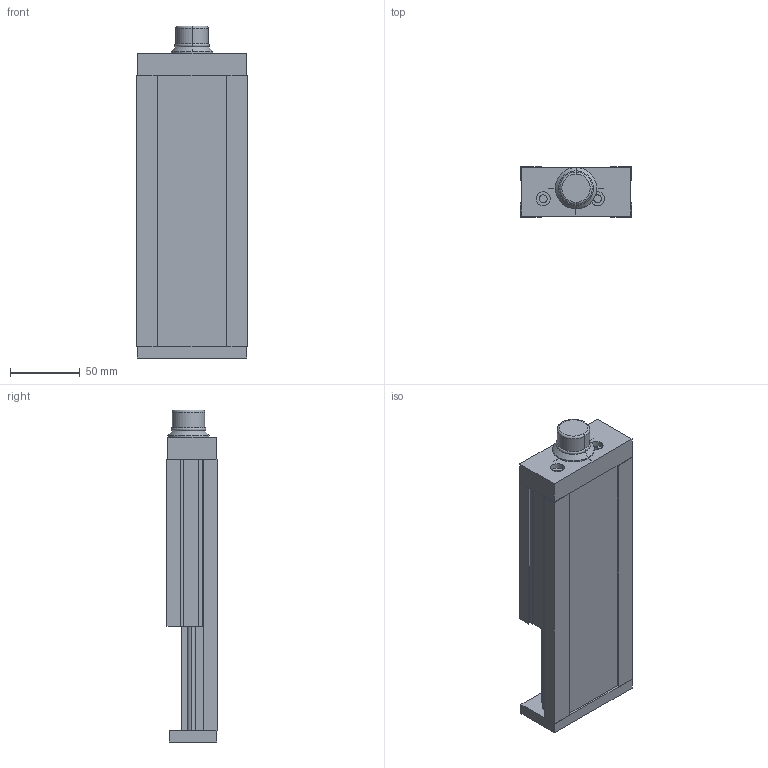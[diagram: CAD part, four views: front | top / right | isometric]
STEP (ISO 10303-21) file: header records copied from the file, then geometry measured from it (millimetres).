
FILE_DESCRIPTION (( 'STEP AP203' ), '1' );
FILE_NAME ('domiLINE 80 Hub 75.STEP', '2004-01-12T08:55:23', ( '' ), ( '' ), 'SwSTEP 2.0', 'SolidWorks 2003064', '' );
FILE_SCHEMA (( 'CONFIG_CONTROL_DESIGN' ));
Length unit declared in the file: millimetre
Products named in the file (3): domiLINE 80 Hub 75; dL80 neu light-+-D003977_ _75; Aussen neu light 80-+-D003976_ _Standard
Assembly tree (2 placements, depth 2):
  domiLINE 80 Hub 75
    dL80 neu light-+-D003977_ _75
    Aussen neu light 80-+-D003976_ _Standard
Bounding box: 80 x 36 x 238.5 mm (x, y, z)
Volume: 438863.3 mm3; surface area: 117725.5 mm2
Topology: 2 solids, 3 shells, 166 faces, 426 edges, 278 vertices
Faces by surface type: plane 114, cylinder 46, torus 4, cone 2
Entity records: 5333 total; most frequent: CARTESIAN_POINT 875, DIRECTION 872, ORIENTED_EDGE 852, EDGE_CURVE 426, LINE 322, VECTOR 322, VERTEX_POINT 278, AXIS2_PLACEMENT_3D 275
